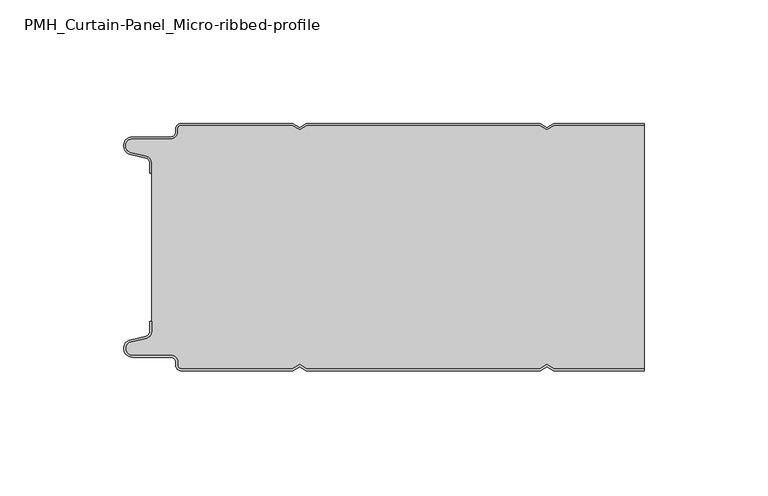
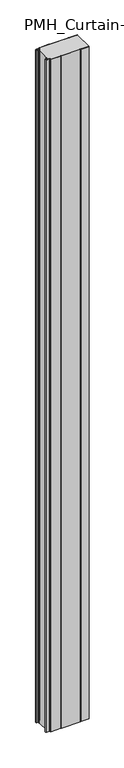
"""IFC4 building model written with IfcOpenShell, lengths in millimetres: plate geometry, PMH_Curtain-Panel_Micro-ribbed-profile : ACH_PMH_Acoustic-Sectioning-Panel_100M."""

from ifc_helpers import new_model, si_unit, point, frame_2d, origin, origin_with_axes, place, context, project, spatial, polyline, circle_curve, trimmed, segment, composite_curve, outline, extrude, source, transform, mapped, element, save


def pmh_curtain_panel_micro_ribbed_profile_e44e9543(model_context):
    return source(origin(), model_context, "Body", "SweptSolid", [
        extrude(outline(composite_curve([segment(polyline([(-100.0, 15.878557), (-100.0, 20.0), (-99.2, 20.0), (-99.2, 15.878557)]), True, "CONTINUOUS"), segment(trimmed(circle_curve(frame_2d((-102.0, 15.878557)), 2.8), [point((-99.2, 15.878557))], [point((-101.370137, 13.1503208))], False, "CARTESIAN"), True, "CONTINUOUS"), segment(polyline([(-101.370137, 13.1503208), (-107.529863, 11.728236)]), True, "CONTINUOUS"), segment(trimmed(circle_curve(frame_2d((-106.9, 9.0)), 2.8), [point((-107.529863, 11.728236))], [point((-106.9, 6.2))], True, "CARTESIAN"), True, "CONTINUOUS"), segment(polyline([(-106.9, 6.2), (-91.4, 6.2)]), True, "CONTINUOUS"), segment(trimmed(circle_curve(frame_2d((-91.4, 3.4)), 2.8), [point((-91.4, 6.2))], [point((-88.6, 3.4))], False, "CARTESIAN"), True, "CONTINUOUS"), segment(polyline([(-88.6, 3.4), (-88.6, 2.0)]), True, "CONTINUOUS"), segment(trimmed(circle_curve(frame_2d((-87.4, 2.0)), 1.2), [point((-88.6, 2.0))], [point((-87.4, 0.8))], True, "CARTESIAN"), True, "CONTINUOUS"), segment(polyline([(-87.4, 0.8), (-42.3143588, 0.8), (-39.4, 2.482606), (-36.4856412, 0.8), (57.6856412, 0.8), (60.6, 2.482606), (63.5143588, 0.8), (100.0, 0.8), (100.0, 0.0), (63.2999995, 0.0), (60.6, 1.5588455), (57.9000005, 0.0), (-36.7000005, 0.0), (-39.4, 1.5588455), (-42.0999995, 0.0), (-87.4, 0.0)]), True, "CONTINUOUS"), segment(trimmed(circle_curve(frame_2d((-87.4, 2.0)), 2.0), [point((-87.4, 0.0))], [point((-89.4, 2.0))], False, "CARTESIAN"), True, "CONTINUOUS"), segment(polyline([(-89.4, 2.0), (-89.4, 3.4)]), True, "CONTINUOUS"), segment(trimmed(circle_curve(frame_2d((-91.4, 3.4)), 2.0), [point((-89.4, 3.4))], [point((-91.4, 5.4))], True, "CARTESIAN"), True, "CONTINUOUS"), segment(polyline([(-91.4, 5.4), (-106.9, 5.4)]), True, "CONTINUOUS"), segment(trimmed(circle_curve(frame_2d((-106.9, 9.0)), 3.6), [point((-106.9, 5.4))], [point((-107.7098239, 12.5077322))], False, "CARTESIAN"), True, "CONTINUOUS"), segment(polyline([(-107.7098239, 12.5077322), (-101.5500979, 13.929817)]), True, "CONTINUOUS"), segment(trimmed(circle_curve(frame_2d((-102.0, 15.878557)), 2.0), [point((-101.5500979, 13.929817))], [point((-100.0, 15.878557))], True, "CARTESIAN"), True, "CONTINUOUS")], self_intersect=False)), origin_with_axes(), (0.0, 0.0, 1.0), 3500.0),
        extrude(outline(composite_curve([segment(trimmed(circle_curve(frame_2d((-102.0, 84.1214426)), 2.8), [point((-99.2, 84.1214426))], [point((-101.370137, 86.8496788))], True, "CARTESIAN"), True, "CONTINUOUS"), segment(polyline([(-101.370137, 86.8496788), (-107.5298631, 88.2717638)]), True, "CONTINUOUS"), segment(trimmed(circle_curve(frame_2d((-106.9, 91.0)), 2.8), [point((-107.5298631, 88.2717638))], [point((-106.9, 93.8))], False, "CARTESIAN"), True, "CONTINUOUS"), segment(polyline([(-106.9, 93.8), (-91.4000001, 93.8)]), True, "CONTINUOUS"), segment(trimmed(circle_curve(frame_2d((-91.4000001, 96.6)), 2.8), [point((-91.4000001, 93.8))], [point((-88.6000001, 96.6))], True, "CARTESIAN"), True, "CONTINUOUS"), segment(polyline([(-88.6000001, 96.6), (-88.6000001, 98.0)]), True, "CONTINUOUS"), segment(trimmed(circle_curve(frame_2d((-87.4000001, 98.0)), 1.2), [point((-88.6000001, 98.0))], [point((-87.4000001, 99.2))], False, "CARTESIAN"), True, "CONTINUOUS"), segment(polyline([(-87.4000001, 99.2), (-42.3143589, 99.2), (-39.4000001, 97.517394), (-36.4856412, 99.2), (57.6856411, 99.2), (60.5999999, 97.517394), (63.5143588, 99.2), (100.0, 99.2), (100.0, 0.8), (63.5143588, 0.8), (60.5999999, 2.482606), (57.6856411, 0.8), (-36.4856412, 0.8), (-39.4000001, 2.482606), (-42.3143589, 0.8), (-87.4000001, 0.8)]), True, "CONTINUOUS"), segment(trimmed(circle_curve(frame_2d((-87.4000001, 2.0)), 1.2), [point((-87.4000001, 0.8))], [point((-88.6000001, 2.0))], False, "CARTESIAN"), True, "CONTINUOUS"), segment(polyline([(-88.6000001, 2.0), (-88.6000001, 3.4)]), True, "CONTINUOUS"), segment(trimmed(circle_curve(frame_2d((-91.4000001, 3.4)), 2.8), [point((-88.6000001, 3.4))], [point((-91.4000001, 6.2))], True, "CARTESIAN"), True, "CONTINUOUS"), segment(polyline([(-91.4000001, 6.2), (-106.9, 6.2)]), True, "CONTINUOUS"), segment(trimmed(circle_curve(frame_2d((-106.9, 9.0)), 2.8), [point((-106.9, 6.2))], [point((-107.5298631, 11.7282362))], False, "CARTESIAN"), True, "CONTINUOUS"), segment(polyline([(-107.5298631, 11.7282362), (-101.370137, 13.1503212)]), True, "CONTINUOUS"), segment(trimmed(circle_curve(frame_2d((-102.0, 15.8785573)), 2.8), [point((-101.370137, 13.1503212))], [point((-99.2, 15.8785573))], True, "CARTESIAN"), True, "CONTINUOUS"), segment(polyline([(-99.2, 15.8785573), (-99.2, 84.1214426)]), True, "CONTINUOUS")], self_intersect=False)), origin_with_axes(), (0.0, 0.0, 1.0), 3500.0),
        extrude(outline(composite_curve([segment(trimmed(circle_curve(frame_2d((-102.0, 84.121443)), 2.0), [point((-100.0, 84.121443))], [point((-101.5500978, 86.0701831))], True, "CARTESIAN"), True, "CONTINUOUS"), segment(polyline([(-101.5500978, 86.0701831), (-107.7098239, 87.492268)]), True, "CONTINUOUS"), segment(trimmed(circle_curve(frame_2d((-106.9, 91.0)), 3.6), [point((-107.7098239, 87.492268))], [point((-106.9, 94.6))], False, "CARTESIAN"), True, "CONTINUOUS"), segment(polyline([(-106.9, 94.6), (-91.4, 94.6)]), True, "CONTINUOUS"), segment(trimmed(circle_curve(frame_2d((-91.4, 96.6)), 2.0), [point((-91.4, 94.6))], [point((-89.4, 96.6))], True, "CARTESIAN"), True, "CONTINUOUS"), segment(polyline([(-89.4, 96.6), (-89.4, 98.0)]), True, "CONTINUOUS"), segment(trimmed(circle_curve(frame_2d((-87.4, 98.0)), 2.0), [point((-89.4, 98.0))], [point((-87.4, 100.0))], False, "CARTESIAN"), True, "CONTINUOUS"), segment(polyline([(-87.4, 100.0), (-42.0999995, 100.0), (-39.4, 98.4411545), (-36.7000005, 100.0), (57.9000005, 100.0), (60.6, 98.4411545), (63.2999995, 100.0), (100.0, 100.0), (100.0, 99.2), (63.5143588, 99.2), (60.6, 97.517394), (57.6856412, 99.2), (-36.4856412, 99.2), (-39.4, 97.517394), (-42.3143588, 99.2), (-87.4, 99.2)]), True, "CONTINUOUS"), segment(trimmed(circle_curve(frame_2d((-87.4, 98.0)), 1.2), [point((-87.4, 99.2))], [point((-88.6, 98.0))], True, "CARTESIAN"), True, "CONTINUOUS"), segment(polyline([(-88.6, 98.0), (-88.6, 96.6)]), True, "CONTINUOUS"), segment(trimmed(circle_curve(frame_2d((-91.4, 96.6)), 2.8), [point((-88.6, 96.6))], [point((-91.4, 93.8))], False, "CARTESIAN"), True, "CONTINUOUS"), segment(polyline([(-91.4, 93.8), (-106.9, 93.8)]), True, "CONTINUOUS"), segment(trimmed(circle_curve(frame_2d((-106.9, 91.0)), 2.8), [point((-106.9, 93.8))], [point((-107.529863, 88.2717638))], True, "CARTESIAN"), True, "CONTINUOUS"), segment(polyline([(-107.529863, 88.2717638), (-101.370137, 86.849679)]), True, "CONTINUOUS"), segment(trimmed(circle_curve(frame_2d((-102.0, 84.121443)), 2.8), [point((-101.370137, 86.849679))], [point((-99.2, 84.121443))], False, "CARTESIAN"), True, "CONTINUOUS"), segment(polyline([(-99.2, 84.121443), (-99.2, 80.0), (-100.0, 80.0), (-100.0, 84.121443)]), True, "CONTINUOUS")], self_intersect=False)), origin_with_axes(), (0.0, 0.0, 1.0), 3500.0),
    ])


if __name__ == "__main__":
    model = new_model("IFC4")
    model_context = context("Model", 3, world=origin())
    ifc_project = project(units=[si_unit("LENGTHUNIT", "METRE", prefix="MILLI")], contexts=[model_context])
    site = spatial("IfcSite", under=ifc_project)
    building = spatial("IfcBuilding", under=site)
    placement = place(None, origin())
    pmh_curtain_panel_micro_ribbed_profile_shape = pmh_curtain_panel_micro_ribbed_profile_e44e9543(model_context)
    element("IfcPlate", 1, ObjectType="PMH_Curtain-Panel_Micro-ribbed-profile : ACH_PMH_Acoustic-Sectioning-Panel_100M", at=placement, inside=building, context=model_context, shape_type="MappedRepresentation", body=[
        mapped(pmh_curtain_panel_micro_ribbed_profile_shape, transform((0.0, 0.0, 0.0), x_axis=(1.0, 0.0, 0.0), y_axis=(0.0, 1.0, 0.0), z_axis=(0.0, 0.0, 1.0))),
    ])
    save(model, "model.ifc")
